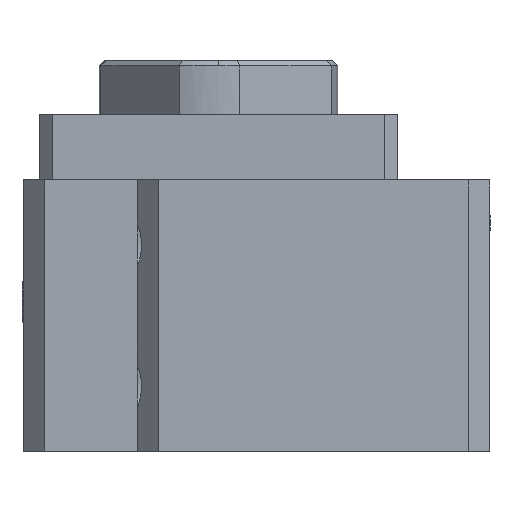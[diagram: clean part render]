
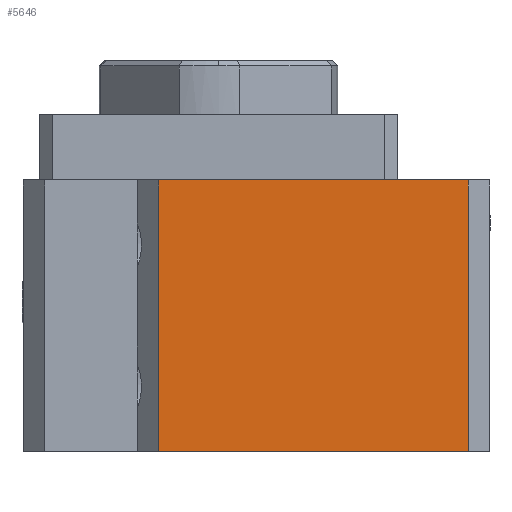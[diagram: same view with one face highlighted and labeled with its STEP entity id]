
A CAD part, left-side view. The second image highlights one B-rep face of the part: STEP entity #5646.
In plain terms, the highlighted planar face has unit normal (-1, 0, 0).
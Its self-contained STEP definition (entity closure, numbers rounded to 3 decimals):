
#478 = CARTESIAN_POINT ( 'NONE',  ( -31.097, 17.779, 12.5 ) ) ;
#774 = VERTEX_POINT ( 'NONE', #3073 ) ;
#974 = VERTEX_POINT ( 'NONE', #8157 ) ;
#1828 = CARTESIAN_POINT ( 'NONE',  ( -31.097, -10.721, -4.167 ) ) ;
#3073 = CARTESIAN_POINT ( 'NONE',  ( -31.097, 17.779, -12.5 ) ) ;
#3809 = EDGE_CURVE ( 'NONE', #11749, #974, #16796, .T. ) ;
#4409 = CARTESIAN_POINT ( 'NONE',  ( -31.097, -10.721, 4.167 ) ) ;
#4490 = B_SPLINE_CURVE_WITH_KNOTS ( 'NONE', 3,
 ( #13866, #1828, #4409, #8294 ),
 .UNSPECIFIED., .F., .F.,
 ( 4, 4 ),
 ( 0., 1. ),
 .UNSPECIFIED. ) ;
#4591 = B_SPLINE_CURVE_WITH_KNOTS ( 'NONE', 3,
 ( #10930, #16263, #14932, #5745 ),
 .UNSPECIFIED., .F., .F.,
 ( 4, 4 ),
 ( 0., 1. ),
 .UNSPECIFIED. ) ;
#5646 = ADVANCED_FACE ( 'NONE', ( #8797 ), #12713, .F. ) ;
#5745 = CARTESIAN_POINT ( 'NONE',  ( -31.097, 17.779, -12.5 ) ) ;
#6234 = DIRECTION ( 'NONE',  ( 0., 1., 0. ) ) ;
#6863 = CARTESIAN_POINT ( 'NONE',  ( -31.097, 17.779, -12.5 ) ) ;
#8157 = CARTESIAN_POINT ( 'NONE',  ( -31.097, 17.779, 12.5 ) ) ;
#8294 = CARTESIAN_POINT ( 'NONE',  ( -31.097, -10.721, 12.5 ) ) ;
#8797 = FACE_OUTER_BOUND ( 'NONE', #14930, .T. ) ;
#9761 = ORIENTED_EDGE ( 'NONE', *, *, #11125, .T. ) ;
#9817 = CARTESIAN_POINT ( 'NONE',  ( -31.097, 17.779, 4.167 ) ) ;
#10056 = CARTESIAN_POINT ( 'NONE',  ( -31.097, -10.721, 12.5 ) ) ;
#10076 = CARTESIAN_POINT ( 'NONE',  ( -31.097, 8.279, 12.5 ) ) ;
#10265 = CARTESIAN_POINT ( 'NONE',  ( -31.097, -10.721, 12.5 ) ) ;
#10930 = CARTESIAN_POINT ( 'NONE',  ( -31.097, -10.721, -12.5 ) ) ;
#11059 = CARTESIAN_POINT ( 'NONE',  ( -31.097, 17.779, -4.167 ) ) ;
#11125 = EDGE_CURVE ( 'NONE', #974, #774, #15707, .T. ) ;
#11237 = CARTESIAN_POINT ( 'NONE',  ( -31.097, -10.721, -12.5 ) ) ;
#11242 = CARTESIAN_POINT ( 'NONE',  ( -31.097, 17.779, 12.5 ) ) ;
#11615 = EDGE_CURVE ( 'NONE', #12315, #774, #4591, .T. ) ;
#11749 = VERTEX_POINT ( 'NONE', #10056 ) ;
#12122 = ORIENTED_EDGE ( 'NONE', *, *, #3809, .T. ) ;
#12315 = VERTEX_POINT ( 'NONE', #15546 ) ;
#12713 = PLANE ( 'NONE',  #15842 ) ;
#13866 = CARTESIAN_POINT ( 'NONE',  ( -31.097, -10.721, -12.5 ) ) ;
#14930 = EDGE_LOOP ( 'NONE', ( #15292, #16567, #12122, #9761 ) ) ;
#14932 = CARTESIAN_POINT ( 'NONE',  ( -31.097, 8.279, -12.5 ) ) ;
#15292 = ORIENTED_EDGE ( 'NONE', *, *, #11615, .F. ) ;
#15350 = DIRECTION ( 'NONE',  ( 1., 0., 0. ) ) ;
#15546 = CARTESIAN_POINT ( 'NONE',  ( -31.097, -10.721, -12.5 ) ) ;
#15707 = B_SPLINE_CURVE_WITH_KNOTS ( 'NONE', 3,
 ( #478, #9817, #11059, #6863 ),
 .UNSPECIFIED., .F., .F.,
 ( 4, 4 ),
 ( 0., 1. ),
 .UNSPECIFIED. ) ;
#15842 = AXIS2_PLACEMENT_3D ( 'NONE', #11237, #15350, #6234 ) ;
#16263 = CARTESIAN_POINT ( 'NONE',  ( -31.097, -1.221, -12.5 ) ) ;
#16567 = ORIENTED_EDGE ( 'NONE', *, *, #16772, .T. ) ;
#16772 = EDGE_CURVE ( 'NONE', #12315, #11749, #4490, .T. ) ;
#16796 = B_SPLINE_CURVE_WITH_KNOTS ( 'NONE', 3,
 ( #10265, #16914, #10076, #11242 ),
 .UNSPECIFIED., .F., .F.,
 ( 4, 4 ),
 ( 0., 1. ),
 .UNSPECIFIED. ) ;
#16914 = CARTESIAN_POINT ( 'NONE',  ( -31.097, -1.221, 12.5 ) ) ;
